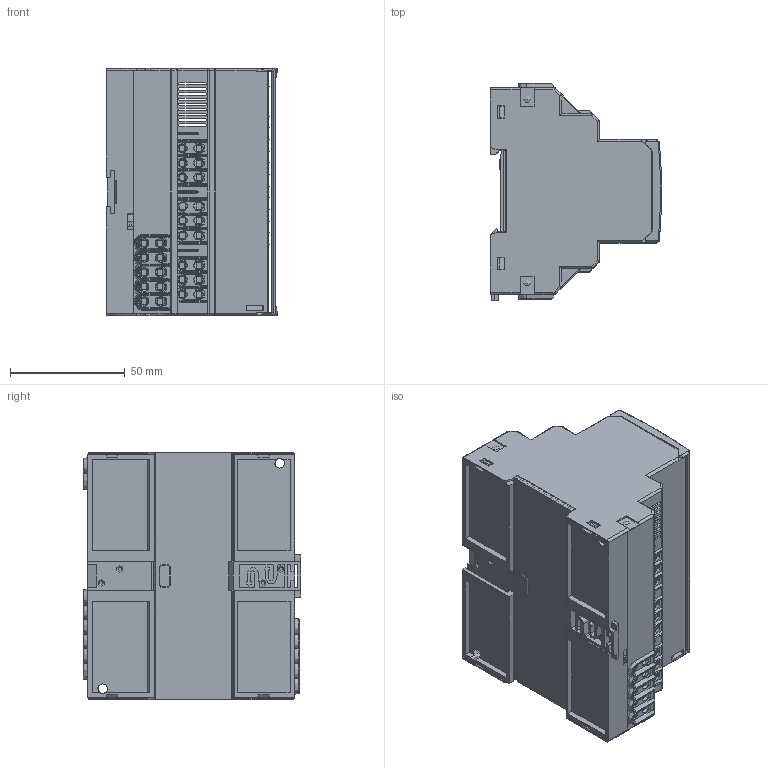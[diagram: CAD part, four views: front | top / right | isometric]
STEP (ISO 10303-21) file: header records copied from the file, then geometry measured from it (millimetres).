
FILE_DESCRIPTION (( 'STEP AP214' ), '1' );
FILE_NAME ('RCMS460-Com.STEP', '2013-09-19T12:41:23', ( 'User' ), ( 'Bender' ), 'SwSTEP 2.0', 'SolidWorks 2013', '' );
FILE_SCHEMA (( 'AUTOMOTIVE_DESIGN' ));
Length unit declared in the file: millimetre
Products named in the file (52): l134700; X1_5; XK1; l135500; XK2_3-pol Feder ORTHO L; rcms460com_lp; A304001_A304001; l134601; X2; A304650_A304650; Schalter_240165; V7; Frontfolie; Schalter_240165_4; V7_2; Schalter_240165_3; V7_4; Q1; V7_3; X1; Schalter_240165_1; X1_3; Schalter_240165_2; V7_6; X1_11; 370031_3-pol RM 6,35mm; V7_1; X1_1; 370030_2-pol RM 6,35mm; V7_5; X1_4; SOT-23; X1_10; Unterteil_z151864.02_108mm_6TE; l135000-Com; Oberteil_z151863.08_108_V3_31p; LCD-Halter_z151969.08_V2_TAST+3+12LEDs; X1_9; Tastflõche_4x4_X460_4pol; X1_8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
Assembly tree (73 placements, depth 4):
  RCMS460-Com
    Oberteil_z151863.08_108_V3_31p
    Unterteil_z151864.02_108mm_6TE
    l134601
      SOT-23
      370030_2-pol RM 6,35mm  x2
      370031_3-pol RM 6,35mm  x3
      Schalter_240165
        Schalter_240165_2
        Schalter_240165_1
        Schalter_240165
        Schalter_240165_3
        Schalter_240165_4
    l134700  x3
      XK2_3-pol Feder ORTHO L
      XK1
    l135000-Com
      V24  x2
      V15  x12
      V3
      Tastflõche_4x4_X460_4pol
      LCD-Halter_z151969.08_V2_TAST+3+12LEDs
    rcms460com_lp
      rcms460com_lp
      V7
        V7_5
        V7_1
        V7_6
        V7
        V7_3
        V7_4
        V7_2
      X2  x6
    l135500
      l135500
      X1
        X1_5
        X1_7
        X1_6
        X1_2
        X1_8
        X1_9
        X1
        X1_10
        X1_4
        X1_1
        X1_11
        X1_3
      Q1
    Frontfolie
    A304650_A304650
    A304001_A304001
Bounding box: 74.5 x 94.7 x 107.5 mm (x, y, z)
Topology: 63 solids, 95 shells, 12567 faces, 33476 edges, 21321 vertices
Faces by surface type: plane 8158, cylinder 2774, cone 617, torus 471, bspline 374, sphere 173
Entity records: 289127 total; most frequent: CARTESIAN_POINT 68625, ORIENTED_EDGE 39514, DIRECTION 36768, EDGE_CURVE 19907, LINE 14356, VECTOR 14356, VERTEX_POINT 12718, AXIS2_PLACEMENT_3D 11206
